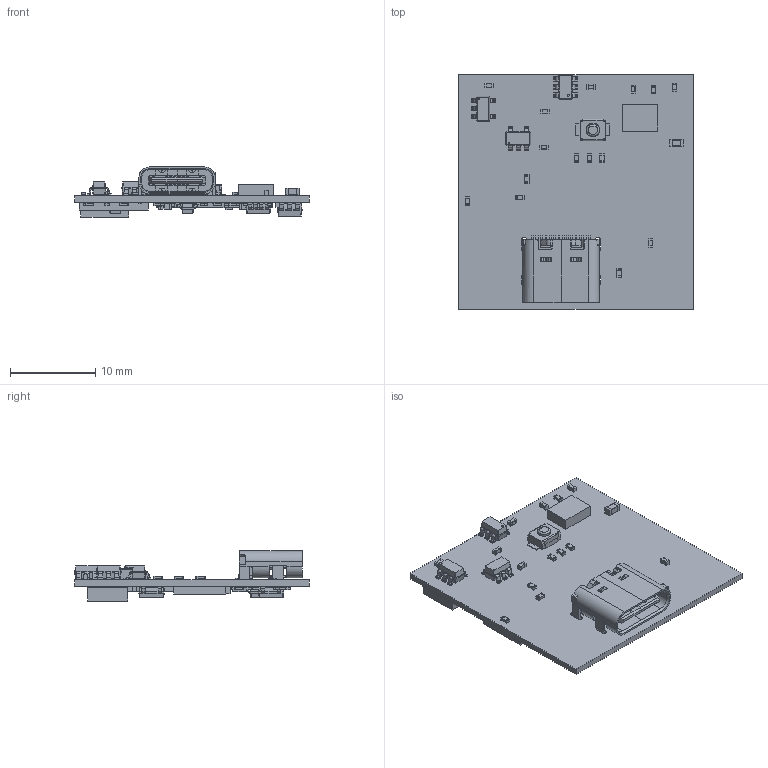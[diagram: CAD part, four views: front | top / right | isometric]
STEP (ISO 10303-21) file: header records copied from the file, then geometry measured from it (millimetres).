
FILE_DESCRIPTION(('Open CASCADE Model'),'2;1');
FILE_NAME('Open CASCADE Shape Model','2026-10-29T13:47:43',('Author'),( 'Open CASCADE'),'Open CASCADE STEP processor 7.9','Open CASCADE 7.9' ,'Unknown');
FILE_SCHEMA(('AUTOMOTIVE_DESIGN { 1 0 10303 214 1 1 1 1 }'));
Length unit declared in the file: millimetre
Products named in the file (56): Open CASCADE STEP translator 7.9 1; Open CASCADE STEP translator 7.9 1.1; Open CASCADE STEP translator 7.9 1.1.1; Open CASCADE STEP translator 7.9 1.1.4; Open CASCADE STEP translator 7.9 1.1.6; Open CASCADE STEP translator 7.9 1.1.7; Open CASCADE STEP translator 7.9 1.1.9; Open CASCADE STEP translator 7.9 1.1.9.1; Open CASCADE STEP translator 7.9 1.1.9.1.1; Open CASCADE STEP translator 7.9 1.1.9.1.2; Open CASCADE STEP translator 7.9 1.1.9.1.3; Open CASCADE STEP translator 7.9 1.1.9.1.4; Open CASCADE STEP translator 7.9 1.1.9.1.5; Open CASCADE STEP translator 7.9 1.1.9.1.6; Open CASCADE STEP translator 7.9 1.1.9.1.7; Open CASCADE STEP translator 7.9 1.1.9.1.8; Open CASCADE STEP translator 7.9 1.1.9.1.9; Open CASCADE STEP translator 7.9 1.1.9.1.10; Open CASCADE STEP translator 7.9 1.1.9.1.11; Open CASCADE STEP translator 7.9 1.1.9.1.12; Open CASCADE STEP translator 7.9 1.1.9.1.13; Open CASCADE STEP translator 7.9 1.1.9.1.14; Open CASCADE STEP translator 7.9 1.1.9.1.15; Open CASCADE STEP translator 7.9 1.1.9.1.16; Open CASCADE STEP translator 7.9 1.1.9.1.17; Open CASCADE STEP translator 7.9 1.1.9.1.18; Open CASCADE STEP translator 7.9 1.1.9.1.19; Open CASCADE STEP translator 7.9 1.1.9.1.20; Open CASCADE STEP translator 7.9 1.1.9.1.21; Open CASCADE STEP translator 7.9 1.1.9.1.22; Open CASCADE STEP translator 7.9 1.1.9.1.23; Open CASCADE STEP translator 7.9 1.1.9.1.24; Open CASCADE STEP translator 7.9 1.1.9.1.25; Open CASCADE STEP translator 7.9 1.1.9.1.26; Open CASCADE STEP translator 7.9 1.1.9.1.27; Open CASCADE STEP translator 7.9 1.1.9.1.28; Open CASCADE STEP translator 7.9 1.1.9.1.29; Open CASCADE STEP translator 7.9 1.1.9.1.30; Open CASCADE STEP translator 7.9 1.1.9.1.31; Open CASCADE STEP translator 7.9 1.1.9.1.32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
Assembly tree (107 placements, depth 5):
  Open CASCADE STEP translator 7.9 1
    Open CASCADE STEP translator 7.9 1.1
      Open CASCADE STEP translator 7.9 1.1.1  x30
      Open CASCADE STEP translator 7.9 1.1.4
      Open CASCADE STEP translator 7.9 1.1.6  x4
      Open CASCADE STEP translator 7.9 1.1.7  x18
      Open CASCADE STEP translator 7.9 1.1.9
        Open CASCADE STEP translator 7.9 1.1.9.1
          Open CASCADE STEP translator 7.9 1.1.9.1.1
          Open CASCADE STEP translator 7.9 1.1.9.1.2
          Open CASCADE STEP translator 7.9 1.1.9.1.3
          Open CASCADE STEP translator 7.9 1.1.9.1.4
          Open CASCADE STEP translator 7.9 1.1.9.1.5
          Open CASCADE STEP translator 7.9 1.1.9.1.6
          Open CASCADE STEP translator 7.9 1.1.9.1.7
          Open CASCADE STEP translator 7.9 1.1.9.1.8
          Open CASCADE STEP translator 7.9 1.1.9.1.9
          Open CASCADE STEP translator 7.9 1.1.9.1.10
          Open CASCADE STEP translator 7.9 1.1.9.1.11
          Open CASCADE STEP translator 7.9 1.1.9.1.12
          Open CASCADE STEP translator 7.9 1.1.9.1.13
          Open CASCADE STEP translator 7.9 1.1.9.1.14
          Open CASCADE STEP translator 7.9 1.1.9.1.15
          Open CASCADE STEP translator 7.9 1.1.9.1.16
          Open CASCADE STEP translator 7.9 1.1.9.1.17
          Open CASCADE STEP translator 7.9 1.1.9.1.18
          Open CASCADE STEP translator 7.9 1.1.9.1.19
          Open CASCADE STEP translator 7.9 1.1.9.1.20
          Open CASCADE STEP translator 7.9 1.1.9.1.21
          Open CASCADE STEP translator 7.9 1.1.9.1.22
          Open CASCADE STEP translator 7.9 1.1.9.1.23
          Open CASCADE STEP translator 7.9 1.1.9.1.24
          Open CASCADE STEP translator 7.9 1.1.9.1.25
          Open CASCADE STEP translator 7.9 1.1.9.1.26
          Open CASCADE STEP translator 7.9 1.1.9.1.27
          Open CASCADE STEP translator 7.9 1.1.9.1.28
          Open CASCADE STEP translator 7.9 1.1.9.1.29
          Open CASCADE STEP translator 7.9 1.1.9.1.30
          Open CASCADE STEP translator 7.9 1.1.9.1.31
          Open CASCADE STEP translator 7.9 1.1.9.1.32
          Open CASCADE STEP translator 7.9 1.1.9.1.33
          Open CASCADE STEP translator 7.9 1.1.9.1.34
          Open CASCADE STEP translator 7.9 1.1.9.1.35
          Open CASCADE STEP translator 7.9 1.1.9.1.36
      Open CASCADE STEP translator 7.9 1.1.11  x2
      Open CASCADE STEP translator 7.9 1.1.21  x2
      Open CASCADE STEP translator 7.9 1.1.30
      Open CASCADE STEP translator 7.9 1.1.36  x2
      Open CASCADE STEP translator 7.9 1.1.44
      Open CASCADE STEP translator 7.9 1.1.48
      Open CASCADE STEP translator 7.9 1.1.58
      Open CASCADE STEP translator 7.9 1.1.65
    Open CASCADE STEP translator 7.9 1.2
    Open CASCADE STEP translator 7.9 1.3
    Open CASCADE STEP translator 7.9 1.4
    Open CASCADE STEP translator 7.9 1.5
Bounding box: 27.5 x 27.5 x 5.88 mm (x, y, z)
Volume: 870.6 mm3; surface area: 2890.8 mm2
Topology: 104 solids, 104 shells, 3064 faces, 7925 edges, 5101 vertices
Faces by surface type: plane 2112, cylinder 815, bspline 126, cone 8, sphere 2, torus 1
Full cylindrical faces by diameter (mm): 0.25 x1, 0.5 x2, 0.65 x2, 0.8 x1, 1.6 x1
Entity records: 95621 total; most frequent: CARTESIAN_POINT 18831, DIRECTION 14214, LINE 9778, VECTOR 9778, ORIENTED_EDGE 7522, PCURVE 7514, DEFINITIONAL_REPRESENTATION 7514, EDGE_CURVE 3757
